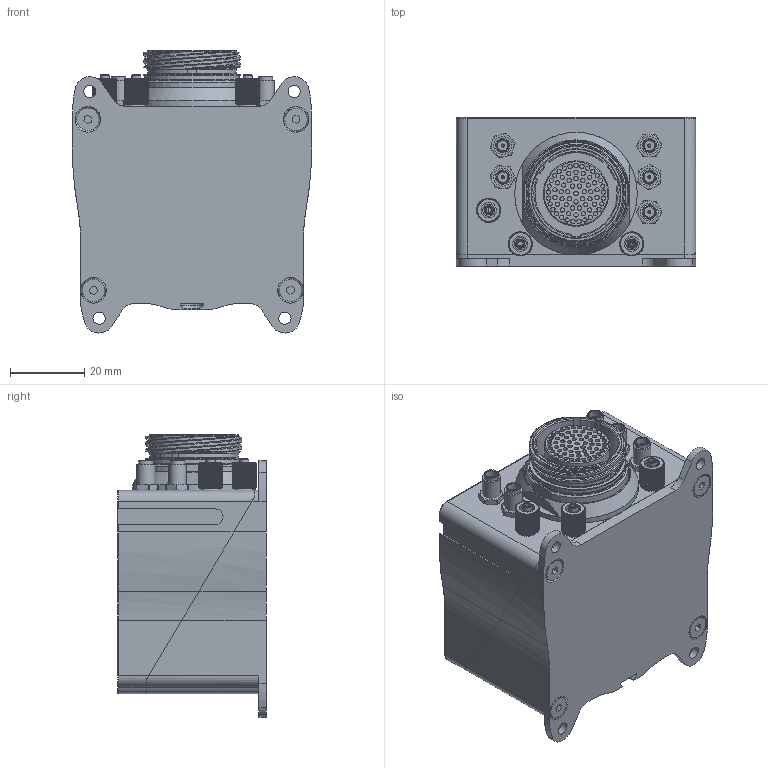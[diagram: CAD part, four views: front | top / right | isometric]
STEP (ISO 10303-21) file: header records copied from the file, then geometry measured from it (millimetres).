
FILE_DESCRIPTION(/* description */ (''),/* implementation_level */ '2;1');
FILE_NAME(/* name */ 'D:\Releases\1xVeronte\1xVeronte\481010\ENCR0\ENCR0-481010_website\1xVeronte ENC__.stp',/* time_stamp */ '2022-01-24T16:45:58+01:00',/* author */ ('jbs3'),/* organization */ (''),/* preprocessor_version */ 'ST-DEVELOPER v17',/* originating_system */ 'Autodesk Inventor 2018',/* authorisation */ '');
FILE_SCHEMA (('AUTOMOTIVE_DESIGN { 1 0 10303 214 3 1 1 }'));
Length unit declared in the file: millimetre
Products named in the file (1): 1xVeronte ENC__
Bounding box: 64.4 x 40 x 75.9 mm (x, y, z)
Volume: 44202.8 mm3; surface area: 60692.7 mm2
Topology: 43 solids, 43 shells, 3040 faces, 8064 edges, 5374 vertices
Faces by surface type: plane 1255, cylinder 1005, cone 388, bspline 362, torus 30
Full cylindrical faces by diameter (mm): 0.5 x5, 0.7 x136, 0.865 x10, 0.92 x8, 1 x4, 1.1 x5, 1.15 x68, 1.5 x3, 1.6 x10, 2 x11, 2.14 x3, 2.4 x4, 2.45 x6, 2.5 x9, 2.794 x5, 2.8 x5, 3 x4, 3.175 x2, 3.2 x5, 3.25 x3, 3.3 x8, 3.9 x5, 4.1 x3, 4.216 x5, 4.5 x7, 4.826 x5, 5 x5, 5.12 x3, 5.45 x3, 6 x4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
Entity records: 110131 total; most frequent: CARTESIAN_POINT 34208, ORIENTED_EDGE 16128, DIRECTION 13608, EDGE_CURVE 8064, VERTEX_POINT 5374, AXIS2_PLACEMENT_3D 4845, LINE 3918, VECTOR 3918
